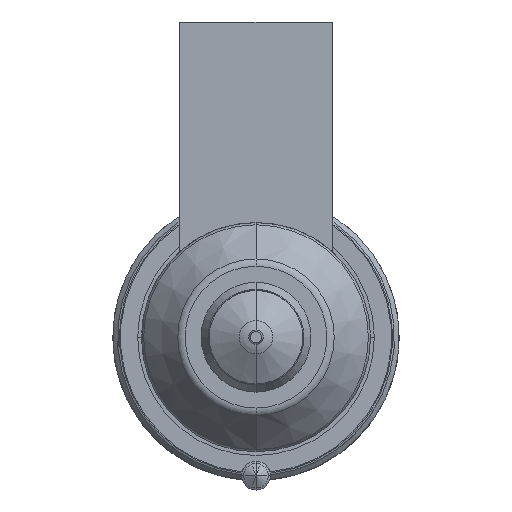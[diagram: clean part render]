
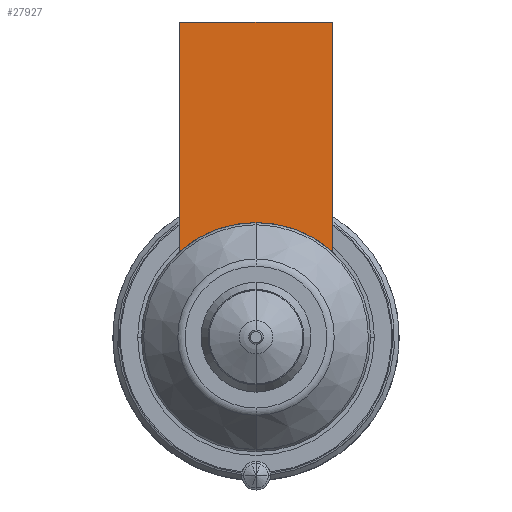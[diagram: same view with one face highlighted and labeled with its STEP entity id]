
A CAD part, front view. The second image highlights one B-rep face of the part: STEP entity #27927.
In plain terms, the highlighted planar face has unit normal (0, -1, 0).
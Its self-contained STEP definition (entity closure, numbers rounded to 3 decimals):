
#27017=DIRECTION('',(0.,0.,-1.));
#27018=VECTOR('',#27017,24.056);
#27019=CARTESIAN_POINT('',(-8.,-56.,33.));
#27020=LINE('',#27019,#27018);
#27057=DIRECTION('',(1.,0.,0.));
#27058=VECTOR('',#27057,16.);
#27059=CARTESIAN_POINT('',(-8.,-56.,33.));
#27060=LINE('',#27059,#27058);
#27064=CARTESIAN_POINT('',(0.,-56.,0.));
#27065=DIRECTION('',(0.,-1.,0.));
#27066=DIRECTION('',(0.667,0.,0.745));
#27067=AXIS2_PLACEMENT_3D('',#27064,#27065,#27066);
#27072=CARTESIAN_POINT('',(0.,-56.,0.));
#27073=DIRECTION('',(0.,-1.,0.));
#27074=DIRECTION('',(0.,0.,1.));
#27075=AXIS2_PLACEMENT_3D('',#27072,#27073,#27074);
#27108=DIRECTION('',(0.,0.,-1.));
#27109=VECTOR('',#27108,24.056);
#27110=CARTESIAN_POINT('',(8.,-56.,33.));
#27111=LINE('',#27110,#27109);
#27763=CARTESIAN_POINT('',(-8.,-56.,33.));
#27764=VERTEX_POINT('',#27763);
#27769=CARTESIAN_POINT('',(8.,-56.,33.));
#27770=VERTEX_POINT('',#27769);
#27773=CARTESIAN_POINT('',(-8.,-56.,8.944));
#27774=VERTEX_POINT('',#27773);
#27777=CARTESIAN_POINT('',(8.,-56.,8.944));
#27778=VERTEX_POINT('',#27777);
#27846=CARTESIAN_POINT('',(0.,-56.,12.));
#27847=VERTEX_POINT('',#27846);
#27912=CARTESIAN_POINT('',(-8.,-56.,33.));
#27913=DIRECTION('',(0.,-1.,0.));
#27914=DIRECTION('',(0.,0.,-1.));
#27915=AXIS2_PLACEMENT_3D('',#27912,#27913,#27914);
#27916=PLANE('',#27915);
#27917=ORIENTED_EDGE('',*,*,#27860,.F.);
#27919=ORIENTED_EDGE('',*,*,#27918,.T.);
#27921=ORIENTED_EDGE('',*,*,#27920,.T.);
#27923=ORIENTED_EDGE('',*,*,#27922,.T.);
#27924=ORIENTED_EDGE('',*,*,#27892,.T.);
#27925=EDGE_LOOP('',(#27917,#27919,#27921,#27923,#27924));
#27926=FACE_OUTER_BOUND('',#27925,.F.);
#27927=ADVANCED_FACE('',(#27926),#27916,.T.);
#27068=CIRCLE('',#27067,12.);
#27076=CIRCLE('',#27075,12.);
#27860=EDGE_CURVE('',#27764,#27774,#27020,.T.);
#27892=EDGE_CURVE('',#27847,#27774,#27076,.T.);
#27918=EDGE_CURVE('',#27764,#27770,#27060,.T.);
#27920=EDGE_CURVE('',#27770,#27778,#27111,.T.);
#27922=EDGE_CURVE('',#27778,#27847,#27068,.T.);
